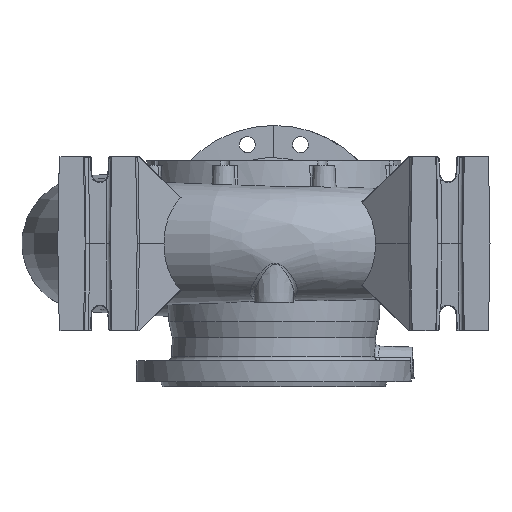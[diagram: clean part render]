
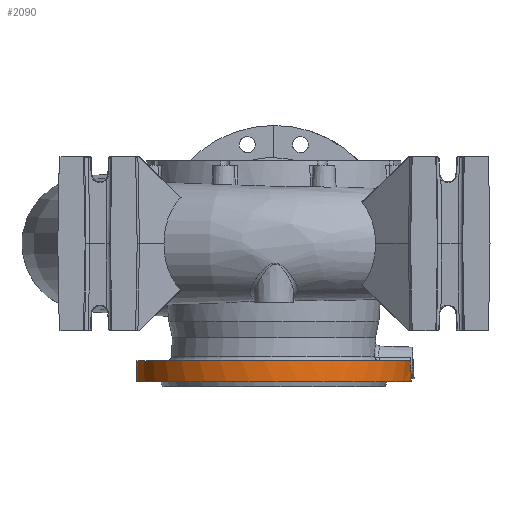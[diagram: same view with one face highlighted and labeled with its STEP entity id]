
A CAD part, front view. The second image highlights one B-rep face of the part: STEP entity #2090.
In plain terms, the highlighted cylindrical face has radius 197.5 mm (diameter 395 mm), a partial arc.
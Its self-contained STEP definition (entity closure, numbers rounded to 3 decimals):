
#2090 = ADVANCED_FACE ( 'NONE', ( #166815 ), #17950, .T. ) ;
#5604 = CARTESIAN_POINT ( 'NONE',  ( 196.998, -14.09, -188.832 ) ) ;
#6198 = CARTESIAN_POINT ( 'NONE',  ( 196.236, -22.308, -175.413 ) ) ;
#6438 = VECTOR ( 'NONE', #14616, 1000. ) ;
#8961 = VERTEX_POINT ( 'NONE', #25697 ) ;
#11847 = ORIENTED_EDGE ( 'NONE', *, *, #164589, .F. ) ;
#13418 = CARTESIAN_POINT ( 'NONE',  ( 196.091, -23.554, -166.762 ) ) ;
#14616 = DIRECTION ( 'NONE',  ( 0., 0., 1. ) ) ;
#15186 = LINE ( 'NONE', #42746, #6438 ) ;
#17812 = CARTESIAN_POINT ( 'NONE',  ( 197.5, 0., -193.692 ) ) ;
#17950 = CYLINDRICAL_SURFACE ( 'NONE', #34547, 197.5 ) ;
#19640 = CARTESIAN_POINT ( 'NONE',  ( 196.74, -17.337, -185.791 ) ) ;
#20265 = CARTESIAN_POINT ( 'NONE',  ( 196.187, -22.738, -172.775 ) ) ;
#25697 = CARTESIAN_POINT ( 'NONE',  ( 195.598, -27.345, -168.084 ) ) ;
#27477 = CARTESIAN_POINT ( 'NONE',  ( 195.995, -24.339, -167.296 ) ) ;
#33117 = CARTESIAN_POINT ( 'NONE',  ( 197.417, -5.734, -192.963 ) ) ;
#33195 = EDGE_CURVE ( 'NONE', #175346, #155176, #104722, .T. ) ;
#33730 = CARTESIAN_POINT ( 'NONE',  ( 196.593, -18.907, -183.613 ) ) ;
#34340 = CARTESIAN_POINT ( 'NONE',  ( 196.203, -22.598, -168.328 ) ) ;
#34409 = EDGE_CURVE ( 'NONE', #53078, #91104, #128123, .T. ) ;
#34547 = AXIS2_PLACEMENT_3D ( 'NONE', #79613, #55089, #138843 ) ;
#37785 = CARTESIAN_POINT ( 'NONE',  ( 0., 0., -198. ) ) ;
#40935 = CARTESIAN_POINT ( 'NONE',  ( 196.292, -21.81, -164.551 ) ) ;
#41529 = CARTESIAN_POINT ( 'NONE',  ( 195.887, -25.188, -167.696 ) ) ;
#42746 = CARTESIAN_POINT ( 'NONE',  ( 197.5, 0., -0.715 ) ) ;
#47190 = CARTESIAN_POINT ( 'NONE',  ( 197.375, -7.025, -192.586 ) ) ;
#47788 = CARTESIAN_POINT ( 'NONE',  ( 196.523, -19.623, -182.472 ) ) ;
#48400 = CARTESIAN_POINT ( 'NONE',  ( 196.257, -22.12, -165.67 ) ) ;
#48844 = VERTEX_POINT ( 'NONE', #50774 ) ;
#50774 = CARTESIAN_POINT ( 'NONE',  ( -197.5, 0., -168.084 ) ) ;
#51861 = DIRECTION ( 'NONE',  ( 1., 0., 0. ) ) ;
#53078 = VERTEX_POINT ( 'NONE', #99153 ) ;
#54513 = CIRCLE ( 'NONE', #83922, 197.5 ) ;
#55089 = DIRECTION ( 'NONE',  ( 0., 0., 1. ) ) ;
#55601 = CARTESIAN_POINT ( 'NONE',  ( 195.769, -26.096, -167.962 ) ) ;
#57931 = CARTESIAN_POINT ( 'NONE',  ( -197.5, 0., -0.715 ) ) ;
#59602 = DIRECTION ( 'NONE',  ( 0., 0., 1. ) ) ;
#61250 = CARTESIAN_POINT ( 'NONE',  ( 197.309, -8.715, -191.978 ) ) ;
#61872 = CARTESIAN_POINT ( 'NONE',  ( 196.416, -20.666, -180.505 ) ) ;
#62480 = CARTESIAN_POINT ( 'NONE',  ( 196.314, -21.611, -163.945 ) ) ;
#66795 = B_SPLINE_CURVE_WITH_KNOTS ( 'NONE', 3,
 ( #138746, #40935, #166895, #83142, #180967, #97221, #13418, #111257, #27477, #125316, #41529, #139338, #55601, #153393, #69673, #167492 ),
 .UNSPECIFIED., .F., .F.,
 ( 4, 2, 2, 2, 2, 2, 2, 4 ),
 ( 0., 0.002, 0.003, 0.004, 0.005, 0.006, 0.007, 0.008 ),
 .UNSPECIFIED. ) ;
#69673 = CARTESIAN_POINT ( 'NONE',  ( 195.642, -27.029, -168.084 ) ) ;
#71015 = CARTESIAN_POINT ( 'NONE',  ( 197.5, 0., -198. ) ) ;
#75316 = CARTESIAN_POINT ( 'NONE',  ( 197.189, -11.115, -190.816 ) ) ;
#75913 = CARTESIAN_POINT ( 'NONE',  ( 196.311, -21.64, -178.023 ) ) ;
#79613 = CARTESIAN_POINT ( 'NONE',  ( 0., 0., -0.715 ) ) ;
#83142 = CARTESIAN_POINT ( 'NONE',  ( 196.196, -22.661, -165.878 ) ) ;
#83922 = AXIS2_PLACEMENT_3D ( 'NONE', #143323, #59602, #157395 ) ;
#88794 = CARTESIAN_POINT ( 'NONE',  ( 197.5, -1.798, -193.692 ) ) ;
#89389 = CARTESIAN_POINT ( 'NONE',  ( 197.048, -13.368, -189.377 ) ) ;
#89999 = CARTESIAN_POINT ( 'NONE',  ( 196.258, -22.116, -176.29 ) ) ;
#91104 = VERTEX_POINT ( 'NONE', #156923 ) ;
#97221 = CARTESIAN_POINT ( 'NONE',  ( 196.119, -23.315, -166.559 ) ) ;
#99153 = CARTESIAN_POINT ( 'NONE',  ( 197.5, 0., -193.692 ) ) ;
#103438 = CARTESIAN_POINT ( 'NONE',  ( 196.845, -16.13, -187.093 ) ) ;
#104053 = CARTESIAN_POINT ( 'NONE',  ( 196.227, -22.391, -174.974 ) ) ;
#104722 = CIRCLE ( 'NONE', #150469, 197.5 ) ;
#109239 = ORIENTED_EDGE ( 'NONE', *, *, #169105, .T. ) ;
#111257 = CARTESIAN_POINT ( 'NONE',  ( 196.028, -24.067, -167.131 ) ) ;
#116246 = CARTESIAN_POINT ( 'NONE',  ( -197.5, 0., -198. ) ) ;
#116912 = CARTESIAN_POINT ( 'NONE',  ( 197.475, -3.565, -193.482 ) ) ;
#117514 = CARTESIAN_POINT ( 'NONE',  ( 196.617, -18.653, -183.984 ) ) ;
#118122 = CARTESIAN_POINT ( 'NONE',  ( 196.179, -22.808, -171.004 ) ) ;
#123263 = ORIENTED_EDGE ( 'NONE', *, *, #176085, .T. ) ;
#125316 = CARTESIAN_POINT ( 'NONE',  ( 195.924, -24.899, -167.578 ) ) ;
#128123 = B_SPLINE_CURVE_WITH_KNOTS ( 'NONE', 3,
 ( #17812, #88794, #116912, #33117, #130949, #47190, #144997, #61250, #159068, #75316, #173124, #89389, #5604, #103438, #19640, #117514, #33730, #131557, #47788, #145604, #61872, #159663, #75913, #173737, #89999, #6198, #104053, #20265, #118122, #34340, #132179, #48400, #146205, #62480 ),
 .UNSPECIFIED., .F., .F.,
 ( 4, 2, 2, 2, 2, 2, 2, 2, 2, 2, 2, 2, 2, 2, 2, 2, 4 ),
 ( 0.038, 0.044, 0.045, 0.046, 0.049, 0.052, 0.054, 0.06, 0.061, 0.062, 0.065, 0.068, 0.069, 0.07, 0.076, 0.078, 0.081 ),
 .UNSPECIFIED. ) ;
#130949 = CARTESIAN_POINT ( 'NONE',  ( 197.404, -6.166, -192.846 ) ) ;
#131557 = CARTESIAN_POINT ( 'NONE',  ( 196.546, -19.393, -182.856 ) ) ;
#132179 = CARTESIAN_POINT ( 'NONE',  ( 196.217, -22.473, -167.431 ) ) ;
#134286 = EDGE_LOOP ( 'NONE', ( #166905, #178830, #109239, #163924, #123263, #11847 ) ) ;
#135622 = DIRECTION ( 'NONE',  ( 0., 0., 1. ) ) ;
#137680 = LINE ( 'NONE', #57931, #174837 ) ;
#138746 = CARTESIAN_POINT ( 'NONE',  ( 196.314, -21.611, -163.945 ) ) ;
#138843 = DIRECTION ( 'NONE',  ( 1., 0., 0. ) ) ;
#139338 = CARTESIAN_POINT ( 'NONE',  ( 195.81, -25.786, -167.889 ) ) ;
#141646 = DIRECTION ( 'NONE',  ( 0., 0., 1. ) ) ;
#143323 = CARTESIAN_POINT ( 'NONE',  ( 0., 0., -168.084 ) ) ;
#144997 = CARTESIAN_POINT ( 'NONE',  ( 197.36, -7.454, -192.443 ) ) ;
#145604 = CARTESIAN_POINT ( 'NONE',  ( 196.457, -20.278, -181.305 ) ) ;
#146205 = CARTESIAN_POINT ( 'NONE',  ( 196.283, -21.892, -164.802 ) ) ;
#150469 = AXIS2_PLACEMENT_3D ( 'NONE', #37785, #135622, #51861 ) ;
#153393 = CARTESIAN_POINT ( 'NONE',  ( 195.685, -26.716, -168.06 ) ) ;
#155176 = VERTEX_POINT ( 'NONE', #71015 ) ;
#156923 = CARTESIAN_POINT ( 'NONE',  ( 196.314, -21.611, -163.945 ) ) ;
#157395 = DIRECTION ( 'NONE',  ( 1., 0., 0. ) ) ;
#159068 = CARTESIAN_POINT ( 'NONE',  ( 197.271, -9.531, -191.621 ) ) ;
#159663 = CARTESIAN_POINT ( 'NONE',  ( 196.343, -21.347, -178.864 ) ) ;
#163924 = ORIENTED_EDGE ( 'NONE', *, *, #34409, .T. ) ;
#163938 = EDGE_CURVE ( 'NONE', #175346, #48844, #137680, .T. ) ;
#164589 = EDGE_CURVE ( 'NONE', #48844, #8961, #54513, .T. ) ;
#166815 = FACE_OUTER_BOUND ( 'NONE', #134286, .T. ) ;
#166895 = CARTESIAN_POINT ( 'NONE',  ( 196.26, -22.098, -165.11 ) ) ;
#166905 = ORIENTED_EDGE ( 'NONE', *, *, #163938, .F. ) ;
#167492 = CARTESIAN_POINT ( 'NONE',  ( 195.598, -27.345, -168.084 ) ) ;
#169105 = EDGE_CURVE ( 'NONE', #155176, #53078, #15186, .T. ) ;
#173124 = CARTESIAN_POINT ( 'NONE',  ( 197.144, -11.882, -190.367 ) ) ;
#173737 = CARTESIAN_POINT ( 'NONE',  ( 196.27, -22.006, -176.728 ) ) ;
#174837 = VECTOR ( 'NONE', #141646, 1000. ) ;
#175346 = VERTEX_POINT ( 'NONE', #116246 ) ;
#176085 = EDGE_CURVE ( 'NONE', #91104, #8961, #66795, .T. ) ;
#178830 = ORIENTED_EDGE ( 'NONE', *, *, #33195, .T. ) ;
#180967 = CARTESIAN_POINT ( 'NONE',  ( 196.172, -22.869, -166.118 ) ) ;
